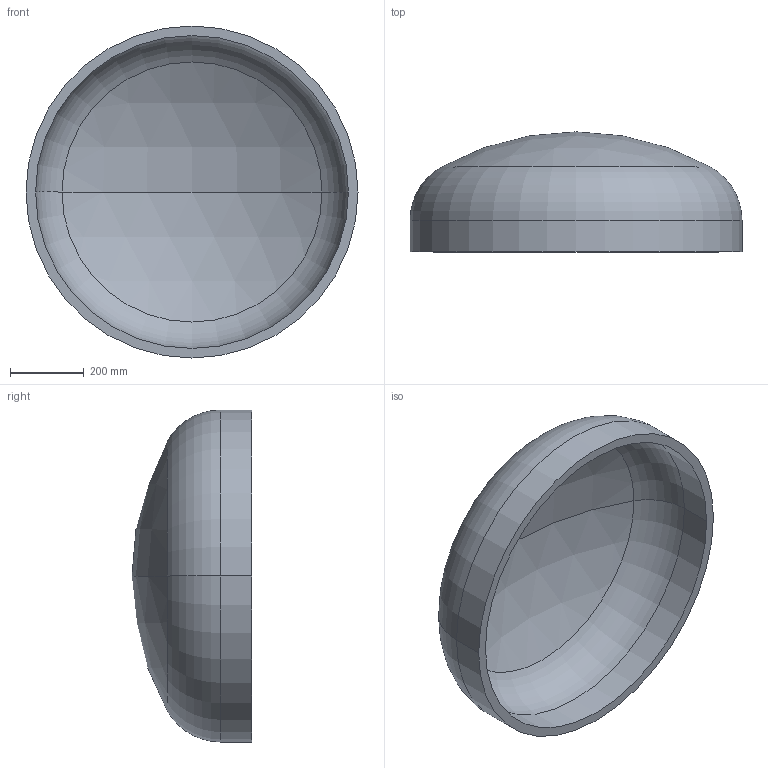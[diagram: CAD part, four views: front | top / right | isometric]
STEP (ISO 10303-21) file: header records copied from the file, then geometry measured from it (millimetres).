
FILE_DESCRIPTION (( 'STEP AP203' ), '1' );
FILE_NAME ('DIN 28013 Korbbogenform_-_Boden DIN 28013 - 900 x 85 - I - s=26.step', '2016-07-01T08:28:29', ( '' ), ( '' ), 'SwSTEP 2.0', 'SolidWorks 2013', '' );
FILE_SCHEMA (( 'CONFIG_CONTROL_DESIGN' ));
Length unit declared in the file: millimetre
Products named in the file (1): DIN 28013 Korbbogenform_-_Boden DIN 28013 - 900 x 85 - I - s=26
Bounding box: 900 x 325.29 x 900 mm (x, y, z)
Volume: 28171933.3 mm3; surface area: 2239876.6 mm2
Topology: 1 solids, 1 shells, 13 faces, 24 edges, 14 vertices
Faces by surface type: torus 4, cylinder 4, sphere 4, plane 1
Entity records: 407 total; most frequent: DIRECTION 72, CARTESIAN_POINT 52, ORIENTED_EDGE 48, AXIS2_PLACEMENT_3D 34, EDGE_CURVE 24, CIRCLE 20, VERTEX_POINT 14, EDGE_LOOP 14
